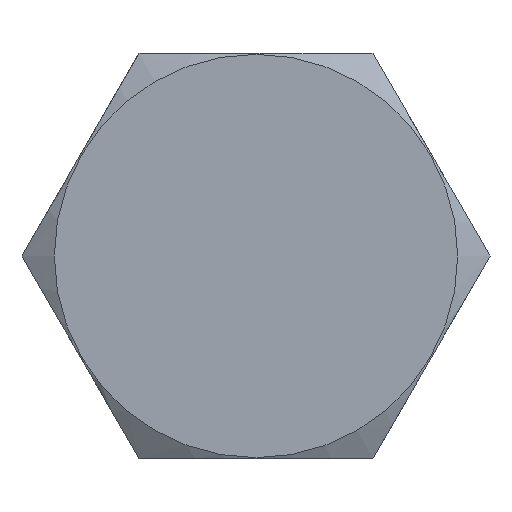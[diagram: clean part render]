
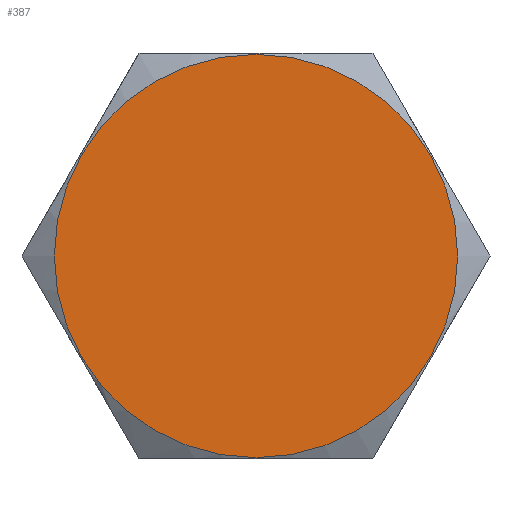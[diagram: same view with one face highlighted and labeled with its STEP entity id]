
A CAD part, front view. The second image highlights one B-rep face of the part: STEP entity #387.
In plain terms, the highlighted planar face has unit normal (0, -1, 0).
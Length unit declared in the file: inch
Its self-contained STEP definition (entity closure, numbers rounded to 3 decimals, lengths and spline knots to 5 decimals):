
#41=PLANE('',#442);
#69=FACE_OUTER_BOUND('',#91,.T.);
#91=EDGE_LOOP('',(#352));
#151=CIRCLE('',#441,0.43531);
#189=VERTEX_POINT('',#752);
#245=EDGE_CURVE('',#189,#189,#151,.T.);
#352=ORIENTED_EDGE('',*,*,#245,.F.);
#387=ADVANCED_FACE('',(#69),#41,.T.);
#441=AXIS2_PLACEMENT_3D('',#753,#538,#539);
#442=AXIS2_PLACEMENT_3D('',#755,#541,#542);
#538=DIRECTION('center_axis',(0.,1.,0.));
#539=DIRECTION('ref_axis',(0.,0.,1.));
#541=DIRECTION('center_axis',(0.,-1.,0.));
#542=DIRECTION('ref_axis',(0.,0.,-1.));
#752=CARTESIAN_POINT('',(0.,0.,-0.43531));
#753=CARTESIAN_POINT('Origin',(0.,0.,0.));
#755=CARTESIAN_POINT('Origin',(0.,0.,0.));
